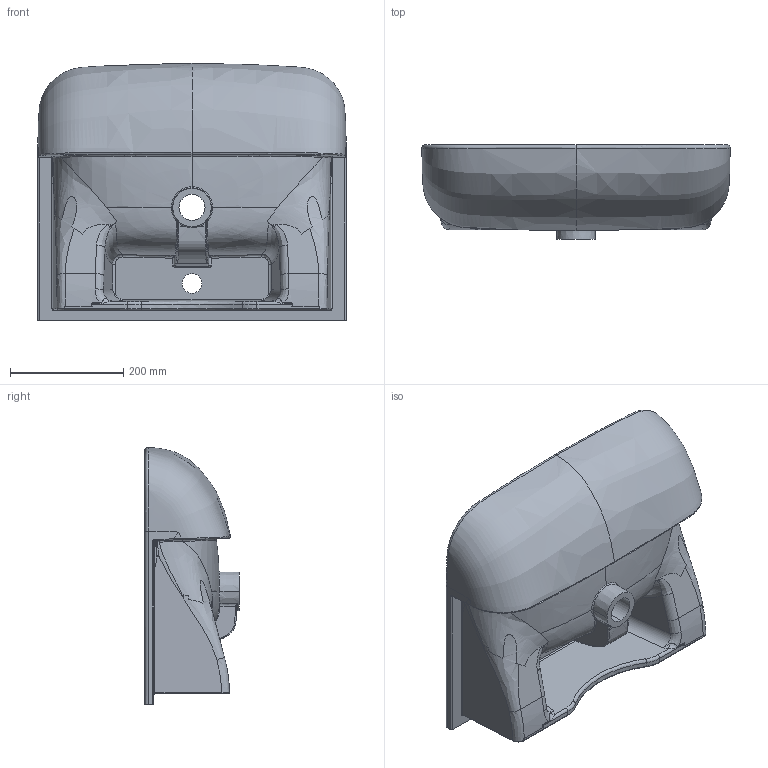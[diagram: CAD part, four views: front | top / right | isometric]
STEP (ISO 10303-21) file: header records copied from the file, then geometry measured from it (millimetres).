
FILE_DESCRIPTION (( 'STEP AP203' ), '1' );
FILE_NAME ('NS055.STEP', '2022-04-27T10:10:52', ( '' ), ( '' ), 'SwSTEP 2.0', 'SolidWorks 2021', '' );
FILE_SCHEMA (( 'CONFIG_CONTROL_DESIGN' ));
Products named in the file (1): NS055
Bounding box: 545.53 x 167 x 454.63 mm (x, y, z)
Volume: 11293954.6 mm3; surface area: 869086.1 mm2
Topology: 2 solids, 2 shells, 236 faces, 636 edges, 393 vertices
Faces by surface type: bspline 140, cylinder 49, plane 36, torus 7, cone 4
Entity records: 97180 total; most frequent: CARTESIAN_POINT 92430, ORIENTED_EDGE 1252, EDGE_CURVE 626, DIRECTION 602, VERTEX_POINT 393, B_SPLINE_CURVE_WITH_KNOTS 333, AXIS2_PLACEMENT_3D 242, EDGE_LOOP 241
